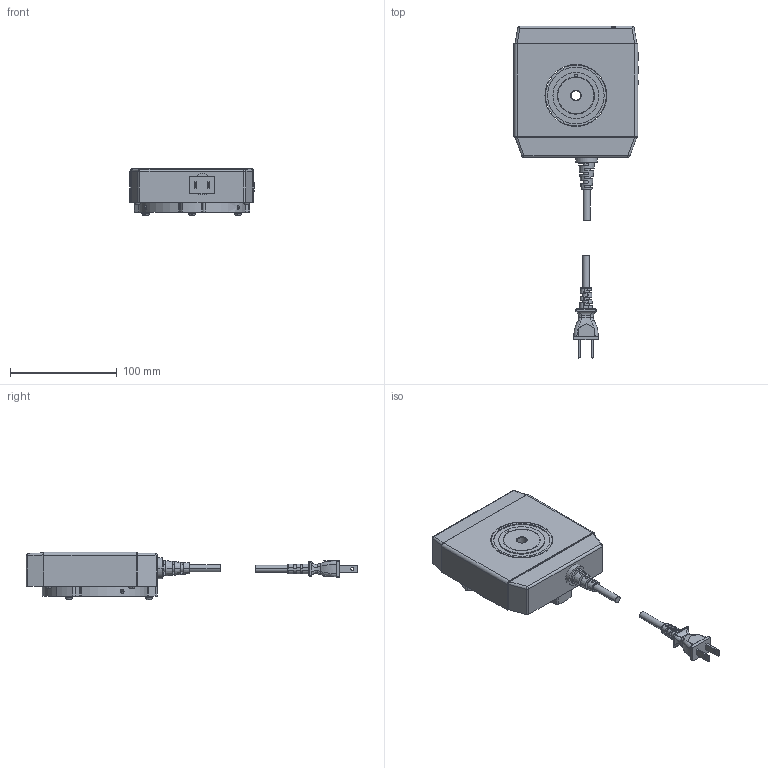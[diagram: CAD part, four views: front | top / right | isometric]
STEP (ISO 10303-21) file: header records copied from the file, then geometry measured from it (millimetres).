
FILE_DESCRIPTION (( 'STEP AP214' ), '1' );
FILE_NAME ('CLR-300A_CLR-600A_Assem2.STEP', '2024-06-18T06:35:04', ( '' ), ( '' ), 'SwSTEP 2.0', 'SolidWorks 2023', '' );
FILE_SCHEMA (( 'AUTOMOTIVE_DESIGN' ));
Length unit declared in the file: millimetre
Products named in the file (8): SCREW M3 X6 MM; CLR-300A_CLR-600A_Assem2; コンセントプラグ; CLR-300A_CLR-600A_Part3; CLR-300A_CLR-600A_Part1; CLR-300A_CLR-600A_Part2; ワッシャ M4; SCREW M4 X15 MM
Assembly tree (14 placements, depth 2):
  CLR-300A_CLR-600A_Assem2
    CLR-300A_CLR-600A_Part1
    CLR-300A_CLR-600A_Part2
    CLR-300A_CLR-600A_Part3
    SCREW M3 X6 MM  x4
    SCREW M4 X15 MM  x3
    ワッシャ M4  x3
    コンセントプラグ
Bounding box: 116.2 x 310.92 x 44.4 mm (x, y, z)
Volume: 473693.7 mm3; surface area: 77493.6 mm2
Topology: 16 solids, 16 shells, 752 faces, 2038 edges, 1362 vertices
Faces by surface type: plane 440, cylinder 209, bspline 44, cone 38, torus 18, sphere 3
Entity records: 21985 total; most frequent: CARTESIAN_POINT 6130, ORIENTED_EDGE 3352, DIRECTION 3067, EDGE_CURVE 1676, VERTEX_POINT 1108, VECTOR 1097, LINE 1097, AXIS2_PLACEMENT_3D 985
